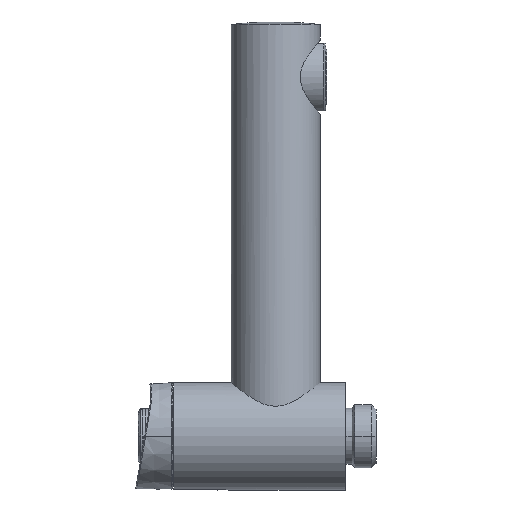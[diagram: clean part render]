
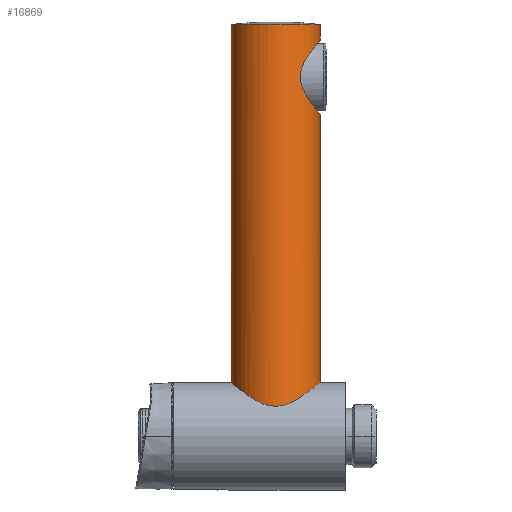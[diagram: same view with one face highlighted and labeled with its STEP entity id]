
A CAD part, left-side view. The second image highlights one B-rep face of the part: STEP entity #16869.
In plain terms, the highlighted cylindrical face has radius 14.5 mm (diameter 29 mm), a partial arc.
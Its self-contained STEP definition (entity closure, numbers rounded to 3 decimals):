
#16360=CARTESIAN_POINT('',(-17.5,-14.5,0.));
#16382=CARTESIAN_POINT('',(-17.5,14.5,0.));
#16384=CARTESIAN_POINT('',(-129.1,-14.5,0.));
#16406=CARTESIAN_POINT('',(-104.9,-14.5,0.));
#16452=CARTESIAN_POINT('',(-17.5,14.5,0.));
#16453=CARTESIAN_POINT('',(-17.5,14.5,-0.75));
#16454=CARTESIAN_POINT('',(-17.403,14.383,
-2.266));
#16455=CARTESIAN_POINT('',(-16.957,13.841,
-4.526));
#16456=CARTESIAN_POINT('',(-16.219,12.93,
-6.706));
#16457=CARTESIAN_POINT('',(-15.175,11.603,
-8.832));
#16458=CARTESIAN_POINT('',(-13.777,9.72,
-10.873));
#16459=CARTESIAN_POINT('',(-12.42,7.687,
-12.37));
#16460=CARTESIAN_POINT('',(-11.287,5.69,
-13.395));
#16461=CARTESIAN_POINT('',(-10.419,3.705,
-14.069));
#16462=CARTESIAN_POINT('',(-9.895,1.747,
-14.435));
#16463=CARTESIAN_POINT('',(-9.748,-0.019,
-14.533));
#16464=CARTESIAN_POINT('',(-9.901,-1.774,
-14.431));
#16465=CARTESIAN_POINT('',(-10.426,-3.723,
-14.064));
#16466=CARTESIAN_POINT('',(-11.293,-5.701,
-13.389));
#16467=CARTESIAN_POINT('',(-12.422,-7.691,
-12.367));
#16468=CARTESIAN_POINT('',(-13.777,-9.72,
-10.872));
#16469=CARTESIAN_POINT('',(-15.175,-11.604,
-8.832));
#16470=CARTESIAN_POINT('',(-16.219,-12.93,
-6.705));
#16471=CARTESIAN_POINT('',(-16.957,-13.842,
-4.526));
#16472=CARTESIAN_POINT('',(-17.403,-14.383,
-2.266));
#16473=CARTESIAN_POINT('',(-17.5,-14.5,-0.751));
#16474=CARTESIAN_POINT('',(-17.5,-14.5,0.));
#16476=DIRECTION('',(-1.,0.,0.));
#16477=VECTOR('',#16476,116.689);
#16478=CARTESIAN_POINT('',(-17.5,14.5,0.));
#16479=LINE('',#16478,#16477);
#16480=DIRECTION('',(-1.,0.,0.));
#16481=VECTOR('',#16480,5.089);
#16482=CARTESIAN_POINT('',(-129.1,-14.5,0.));
#16483=LINE('',#16482,#16481);
#16484=CARTESIAN_POINT('',(-104.9,-14.5,0.));
#16485=CARTESIAN_POINT('',(-104.9,-14.5,-0.629));
#16486=CARTESIAN_POINT('',(-104.994,-14.421,
-1.911));
#16487=CARTESIAN_POINT('',(-105.5,-14.002,
-3.952));
#16488=CARTESIAN_POINT('',(-106.329,-13.327,
-5.822));
#16489=CARTESIAN_POINT('',(-107.435,-12.455,
-7.496));
#16490=CARTESIAN_POINT('',(-108.708,-11.503,
-8.873));
#16491=CARTESIAN_POINT('',(-110.035,-10.585,
-9.936));
#16492=CARTESIAN_POINT('',(-111.347,-9.764,
-10.739));
#16493=CARTESIAN_POINT('',(-112.92,-8.934,
-11.434));
#16494=CARTESIAN_POINT('',(-114.514,-8.32,
-11.88));
#16495=CARTESIAN_POINT('',(-116.145,-7.981,
-12.106));
#16496=CARTESIAN_POINT('',(-117.758,-7.971,
-12.113));
#16497=CARTESIAN_POINT('',(-119.396,-8.293,
-11.898));
#16498=CARTESIAN_POINT('',(-121.002,-8.897,
-11.462));
#16499=CARTESIAN_POINT('',(-122.594,-9.729,
-10.771));
#16500=CARTESIAN_POINT('',(-123.931,-10.562,
-9.961));
#16501=CARTESIAN_POINT('',(-125.272,-11.488,
-8.893));
#16502=CARTESIAN_POINT('',(-126.557,-12.449,
-7.507));
#16503=CARTESIAN_POINT('',(-127.669,-13.325,
-5.827));
#16504=CARTESIAN_POINT('',(-128.5,-14.001,
-3.953));
#16505=CARTESIAN_POINT('',(-129.006,-14.421,
-1.91));
#16506=CARTESIAN_POINT('',(-129.1,-14.5,-0.628));
#16507=CARTESIAN_POINT('',(-129.1,-14.5,0.));
#16509=DIRECTION('',(-1.,0.,0.));
#16510=VECTOR('',#16509,87.4);
#16511=CARTESIAN_POINT('',(-17.5,-14.5,0.));
#16512=LINE('',#16511,#16510);
#16523=CARTESIAN_POINT('',(-134.189,0.,0.));
#16524=DIRECTION('',(-1.,0.,0.));
#16525=DIRECTION('',(0.,1.,0.));
#16526=AXIS2_PLACEMENT_3D('',#16523,#16524,#16525);
#16769=CARTESIAN_POINT('',(-134.189,14.5,0.));
#16771=VERTEX_POINT('',#16769);
#16773=CARTESIAN_POINT('',(-134.189,-14.5,0.));
#16774=VERTEX_POINT('',#16773);
#16791=VERTEX_POINT('',#16384);
#16792=VERTEX_POINT('',#16406);
#16793=VERTEX_POINT('',#16360);
#16794=VERTEX_POINT('',#16382);
#16854=CARTESIAN_POINT('',(-141.75,0.,0.));
#16855=DIRECTION('',(1.,0.,0.));
#16856=DIRECTION('',(0.,-1.,0.));
#16857=AXIS2_PLACEMENT_3D('',#16854,#16855,#16856);
#16858=CYLINDRICAL_SURFACE('',#16857,14.5);
#16859=ORIENTED_EDGE('',*,*,#16842,.F.);
#16860=ORIENTED_EDGE('',*,*,#16832,.T.);
#16862=ORIENTED_EDGE('',*,*,#16861,.T.);
#16863=ORIENTED_EDGE('',*,*,#16828,.F.);
#16865=ORIENTED_EDGE('',*,*,#16864,.F.);
#16866=ORIENTED_EDGE('',*,*,#16824,.F.);
#16867=EDGE_LOOP('',(#16859,#16860,#16862,#16863,#16865,#16866));
#16868=FACE_OUTER_BOUND('',#16867,.F.);
#16869=ADVANCED_FACE('',(#16868),#16858,.T.);
#16475=B_SPLINE_CURVE_WITH_KNOTS('',3,(#16452,#16453,#16454,#16455,#16456,
#16457,#16458,#16459,#16460,#16461,#16462,#16463,#16464,#16465,#16466,#16467,
#16468,#16469,#16470,#16471,#16472,#16473,#16474),.UNSPECIFIED.,.F.,.F.,(4,1,1,
1,1,1,1,1,1,1,1,1,1,1,1,1,1,1,1,1,4),(0.,0.05,0.1,0.15,0.2,0.25,
0.3,0.35,0.4,0.45,0.5,0.55,0.6,0.65,0.7,0.75,0.8,0.85,
0.9,0.95,1.),.UNSPECIFIED.);
#16508=B_SPLINE_CURVE_WITH_KNOTS('',3,(#16484,#16485,#16486,#16487,#16488,
#16489,#16490,#16491,#16492,#16493,#16494,#16495,#16496,#16497,#16498,#16499,
#16500,#16501,#16502,#16503,#16504,#16505,#16506,#16507),.UNSPECIFIED.,.F.,.F.,(
4,1,1,1,1,1,1,1,1,1,1,1,1,1,1,1,1,1,1,1,1,4),(0.,0.048,
0.095,0.143,0.19,0.238,
0.286,0.333,0.381,0.429,
0.476,0.524,0.571,0.619,
0.667,0.714,0.762,0.81,
0.857,0.905,0.952,1.),.UNSPECIFIED.);
#16527=CIRCLE('',#16526,14.5);
#16824=EDGE_CURVE('',#16793,#16792,#16512,.T.);
#16828=EDGE_CURVE('',#16791,#16774,#16483,.T.);
#16832=EDGE_CURVE('',#16794,#16771,#16479,.T.);
#16842=EDGE_CURVE('',#16794,#16793,#16475,.T.);
#16861=EDGE_CURVE('',#16771,#16774,#16527,.T.);
#16864=EDGE_CURVE('',#16792,#16791,#16508,.T.);
